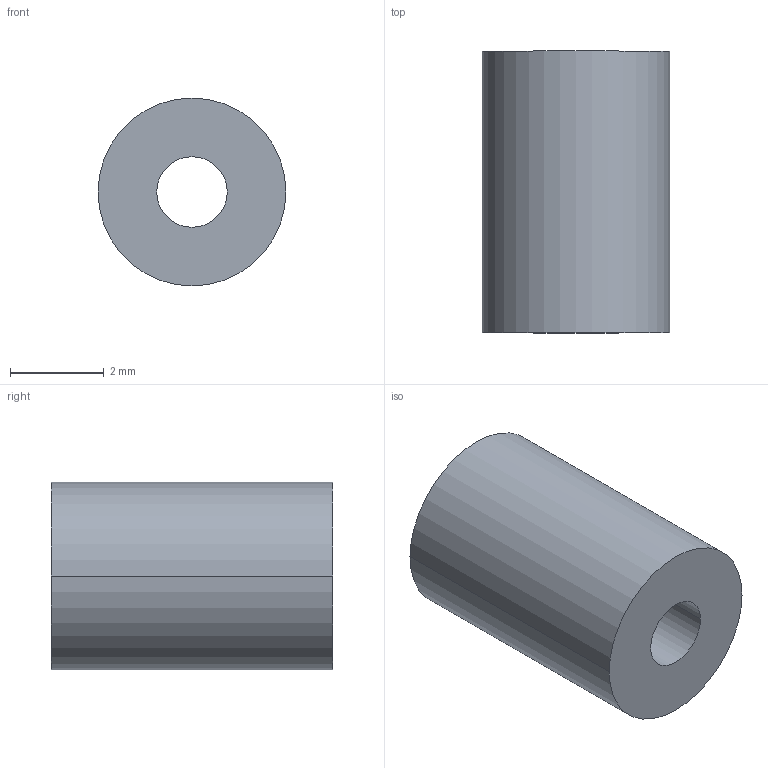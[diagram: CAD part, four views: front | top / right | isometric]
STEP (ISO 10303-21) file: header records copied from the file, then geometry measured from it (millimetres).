
FILE_DESCRIPTION (( 'STEP AP203' ), '1' );
FILE_NAME ('30800.WPP4A1.5.step', '2019-01-23T22:14:39', ( '' ), ( '' ), 'SwSTEP 2.0', 'SolidWorks 2017', '' );
FILE_SCHEMA (( 'CONFIG_CONTROL_DESIGN' ));
Length unit declared in the file: millimetre
Products named in the file (1): 30800.WPP4A1.5
Bounding box: 4 x 6 x 4 mm (x, y, z)
Volume: 63.5 mm3; surface area: 123.7 mm2
Topology: 1 solids, 1 shells, 8 faces, 16 edges, 10 vertices
Faces by surface type: cylinder 4, torus 2, plane 2
Entity records: 297 total; most frequent: DIRECTION 46, CARTESIAN_POINT 35, ORIENTED_EDGE 32, AXIS2_PLACEMENT_3D 21, EDGE_CURVE 16, CIRCLE 12, VERTEX_POINT 10, EDGE_LOOP 10
